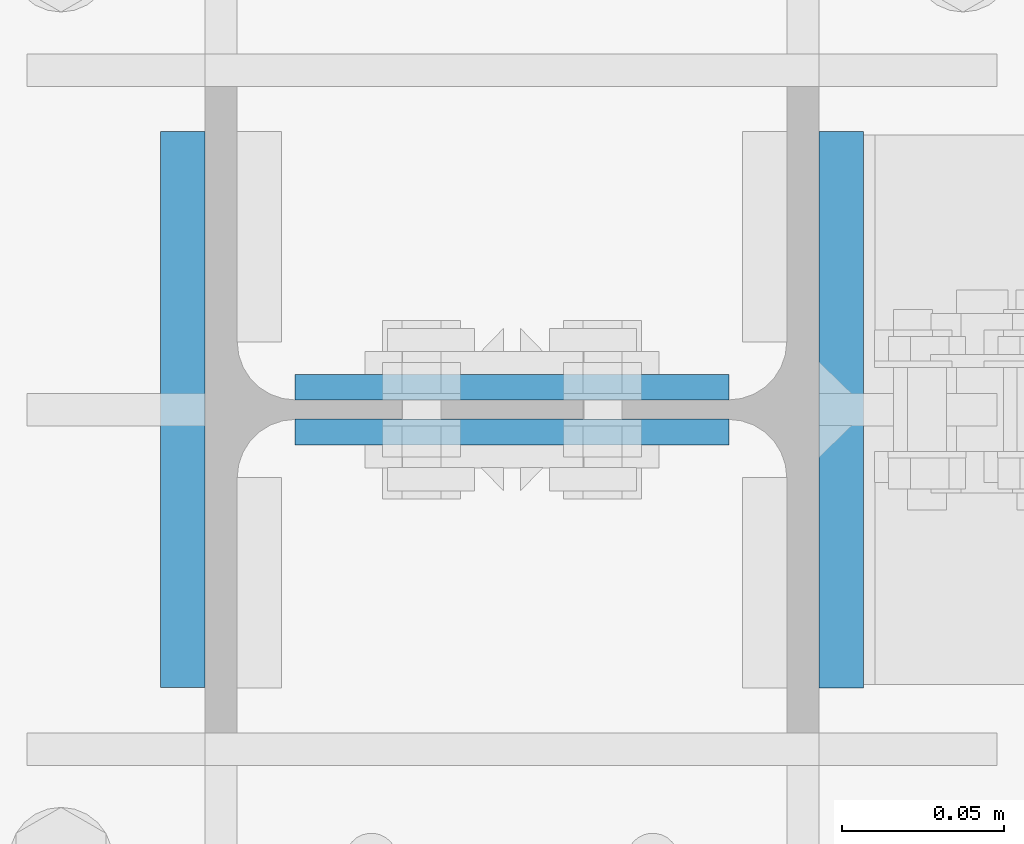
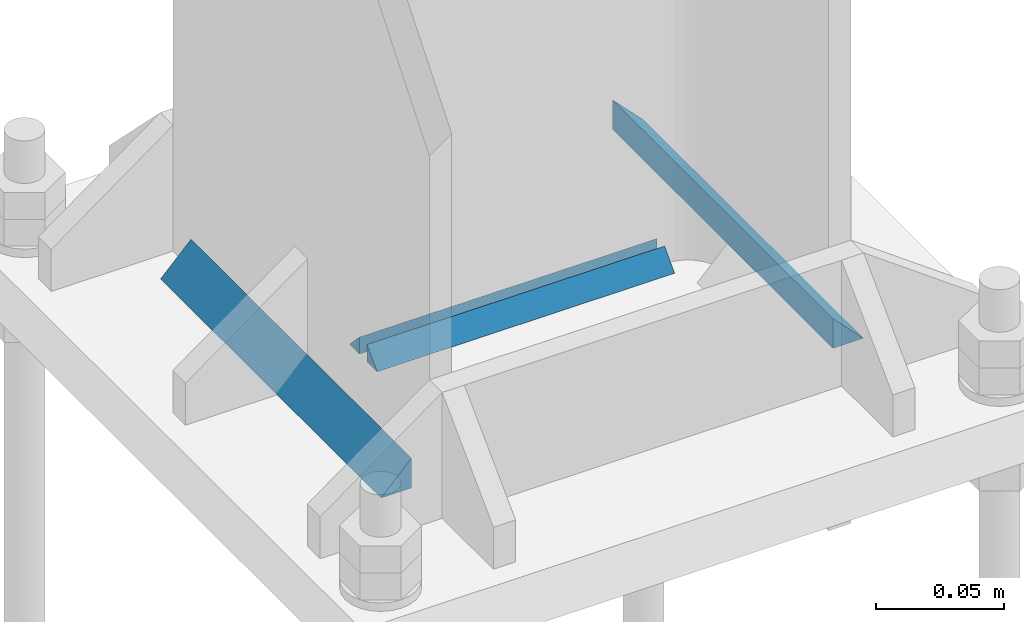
# One storey, part 34 of 251: 8 fasteners.
"""IFC4 building model written with IfcOpenShell, lengths in metres."""

from ifc_helpers import new_model, si_unit, frame, origin_with_axes, place, context, project, spatial, polyline, outline, extrude, type_object, element, save


model = new_model("IFC4")

# Units and contexts
model_context = context("Model", 3, precision=1e-05, world=origin_with_axes())
ifc_project = project(units=[si_unit("LENGTHUNIT", "METRE"), si_unit("AREAUNIT", "SQUARE_METRE"), si_unit("VOLUMEUNIT", "CUBIC_METRE"), si_unit("MASSUNIT", "GRAM", prefix="KILO"), si_unit("TIMEUNIT", "SECOND"), si_unit("PLANEANGLEUNIT", "RADIAN"), si_unit("SOLIDANGLEUNIT", "STERADIAN"), si_unit("THERMODYNAMICTEMPERATUREUNIT", "DEGREE_CELSIUS")], contexts=[model_context])

# Site, building, storey
placement_1 = place(None, origin_with_axes())
site = spatial("IfcSite", under=ifc_project, at=placement_1, Name="Italia", CompositionType="ELEMENT")
building = spatial("IfcBuilding", under=site, at=placement_1, Name="Deposito", CompositionType="ELEMENT")
storey = spatial("IfcBuildingStorey", under=building, at=placement_1, Name="Storey 0", CompositionType="ELEMENT", Elevation=0.0)

# Fasteners
fastener_type_1 = type_object("IfcFastenerType", Name="Collegamenti 0014_-001 0016_-054 0018_-056 0032_-002 0033_-058 0047_-003 0048_-060 0062_-004 0063_-005 0079_-008", PredefinedType="WELD")
placement_2 = place(placement_1, origin_with_axes())
fastener_1_placement = place(placement_2, origin_with_axes())
element("IfcFastener", 1, at=fastener_1_placement, inside=storey, type_object=fastener_type_1, Name="Collegamenti 0014_-001 0016_-054 0018_-056 0032_-002 0033_-058 0047_-003 0048_-060 0062_-004 0063_-005 0079_-008", context=model_context, shape_type="SweptSolid", body=[
    extrude(outline(polyline([(0.0, 0.0), (0.0137482, 0.0141734), (0.0137482, 0.0), (0.0, 0.0)])), frame((5.9413, 10.0861, 0.07495), z_axis=(0.0, -1.0, 0.0), x_axis=(1.0, 0.0, 0.0)), (0.0, 0.0, 1.0), 0.1721),
])
fastener_type_2 = type_object("IfcFastenerType", Name="Collegamenti 0014_-001 0016_-054 0018_-056 0032_-002 0033_-058 0047_-003 0048_-060 0062_-004 0063_-005 0079_-008", PredefinedType="WELD")
fastener_2_placement = place(placement_2, origin_with_axes())
element("IfcFastener", 2, at=fastener_2_placement, inside=storey, type_object=fastener_type_2, Name="Collegamenti 0014_-001 0016_-054 0018_-056 0032_-002 0033_-058 0047_-003 0048_-060 0062_-004 0063_-005 0079_-008", context=model_context, shape_type="SweptSolid", body=[
    extrude(outline(polyline([(0.0, 0.0), (0.0137482, 0.0141734), (0.0137482, 0.0), (0.0, 0.0)])), frame((6.1587, 9.91395, 0.07495), z_axis=(0.0, 1.0, 0.0), x_axis=(-1.0, 0.0, 0.0)), (0.0, 0.0, 1.0), 0.1721),
])
fastener_type_3 = type_object("IfcFastenerType", Name="Collegamenti 0014_-001 0016_-054 0018_-056 0032_-002 0033_-058 0047_-003 0048_-060 0062_-004 0063_-005 0079_-008", PredefinedType="WELD")
fastener_3_placement = place(placement_2, origin_with_axes())
element("IfcFastener", 3, at=fastener_3_placement, inside=storey, type_object=fastener_type_3, Name="Collegamenti 0014_-001 0016_-054 0018_-056 0032_-002 0033_-058 0047_-003 0048_-060 0062_-004 0063_-005 0079_-008", context=model_context, shape_type="SweptSolid", body=[
    extrude(outline(polyline([(0.0, 0.0), (0.00792885, 0.00817336), (0.00792885, 0.0), (0.0, 0.0)])), frame((6.11705, 10.0109, 0.07495), z_axis=(-1.0, 0.0, 0.0), x_axis=(0.0, -1.0, 0.0)), (0.0, 0.0, 1.0), 0.134098),
])
fastener_type_4 = type_object("IfcFastenerType", Name="Collegamenti 0014_-001 0016_-054 0018_-056 0032_-002 0033_-058 0047_-003 0048_-060 0062_-004 0063_-005 0079_-008", PredefinedType="WELD")
fastener_4_placement = place(placement_2, origin_with_axes())
element("IfcFastener", 4, at=fastener_4_placement, inside=storey, type_object=fastener_type_4, Name="Collegamenti 0014_-001 0016_-054 0018_-056 0032_-002 0033_-058 0047_-003 0048_-060 0062_-004 0063_-005 0079_-008", context=model_context, shape_type="SweptSolid", body=[
    extrude(outline(polyline([(0.0, 0.0), (0.00792885, 0.00817336), (0.00792885, 0.0), (0.0, 0.0)])), frame((5.98295, 9.98912, 0.07495), z_axis=(1.0, 0.0, 0.0), x_axis=(0.0, 1.0, 0.0)), (0.0, 0.0, 1.0), 0.134098),
])
fastener_type_5 = type_object("IfcFastenerType", Name="Collegamenti 0014_-001 0016_-054 0018_-056 0032_-002 0033_-058 0047_-003 0048_-060 0062_-004 0063_-005 0079_-008", PredefinedType="WELD")
fastener_5_placement = place(placement_2, origin_with_axes())
element("IfcFastener", 5, at=fastener_5_placement, inside=storey, type_object=fastener_type_5, Name="Collegamenti 0014_-001 0016_-054 0018_-056 0032_-002 0033_-058 0047_-003 0048_-060 0062_-004 0063_-005 0079_-008", context=model_context, shape_type="SweptSolid", body=[
    extrude(outline(polyline([(0.0, 0.0), (0.0137482, 0.0141734), (0.0137482, 0.0), (0.0, 0.0)])), frame((5.9413, 10.0861, 0.07495), z_axis=(0.0, -1.0, 0.0), x_axis=(1.0, 0.0, 0.0)), (0.0, 0.0, 1.0), 0.1721),
])
fastener_type_6 = type_object("IfcFastenerType", Name="Collegamenti 0014_-001 0016_-054 0018_-056 0032_-002 0033_-058 0047_-003 0048_-060 0062_-004 0063_-005 0079_-008", PredefinedType="WELD")
fastener_6_placement = place(placement_2, origin_with_axes())
element("IfcFastener", 6, at=fastener_6_placement, inside=storey, type_object=fastener_type_6, Name="Collegamenti 0014_-001 0016_-054 0018_-056 0032_-002 0033_-058 0047_-003 0048_-060 0062_-004 0063_-005 0079_-008", context=model_context, shape_type="SweptSolid", body=[
    extrude(outline(polyline([(0.0, 0.0), (0.0137482, 0.0141734), (0.0137482, 0.0), (0.0, 0.0)])), frame((6.1587, 9.91395, 0.07495), z_axis=(0.0, 1.0, 0.0), x_axis=(-1.0, 0.0, 0.0)), (0.0, 0.0, 1.0), 0.1721),
])
fastener_type_7 = type_object("IfcFastenerType", Name="Collegamenti 0014_-001 0016_-054 0018_-056 0032_-002 0033_-058 0047_-003 0048_-060 0062_-004 0063_-005 0079_-008", PredefinedType="WELD")
fastener_7_placement = place(placement_2, origin_with_axes())
element("IfcFastener", 7, at=fastener_7_placement, inside=storey, type_object=fastener_type_7, Name="Collegamenti 0014_-001 0016_-054 0018_-056 0032_-002 0033_-058 0047_-003 0048_-060 0062_-004 0063_-005 0079_-008", context=model_context, shape_type="SweptSolid", body=[
    extrude(outline(polyline([(0.0, 0.0), (0.00792885, 0.00817336), (0.00792885, 0.0), (0.0, 0.0)])), frame((6.11705, 10.0109, 0.07495), z_axis=(-1.0, 0.0, 0.0), x_axis=(0.0, -1.0, 0.0)), (0.0, 0.0, 1.0), 0.134098),
])
fastener_type_8 = type_object("IfcFastenerType", Name="Collegamenti 0014_-001 0016_-054 0018_-056 0032_-002 0033_-058 0047_-003 0048_-060 0062_-004 0063_-005 0079_-008", PredefinedType="WELD")
fastener_8_placement = place(placement_2, origin_with_axes())
element("IfcFastener", 8, at=fastener_8_placement, inside=storey, type_object=fastener_type_8, Name="Collegamenti 0014_-001 0016_-054 0018_-056 0032_-002 0033_-058 0047_-003 0048_-060 0062_-004 0063_-005 0079_-008", context=model_context, shape_type="SweptSolid", body=[
    extrude(outline(polyline([(0.0, 0.0), (0.00792885, 0.00817336), (0.00792885, 0.0), (0.0, 0.0)])), frame((5.98295, 9.98912, 0.07495), z_axis=(1.0, 0.0, 0.0), x_axis=(0.0, 1.0, 0.0)), (0.0, 0.0, 1.0), 0.134098),
])

save(model, "model.ifc")
